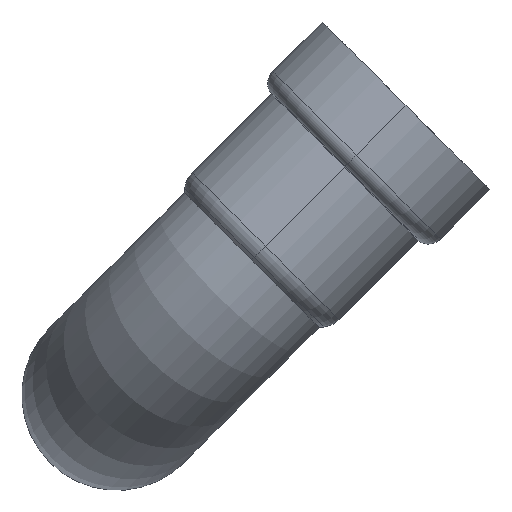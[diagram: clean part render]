
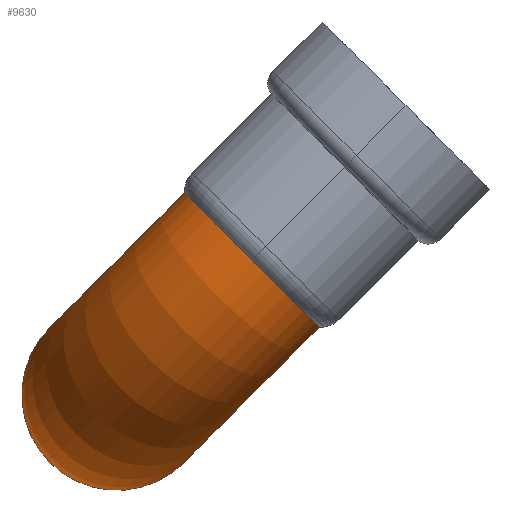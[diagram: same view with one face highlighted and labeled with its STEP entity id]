
A CAD part, top view. The second image highlights one B-rep face of the part: STEP entity #9630.
In plain terms, the highlighted toroidal (fillet/blend) face has major radius 45 mm and minor radius 22.5 mm.
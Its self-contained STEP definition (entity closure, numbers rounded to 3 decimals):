
#1560=CARTESIAN_POINT('',(-22.761,-2.73,
0.));
#1570=VERTEX_POINT('',#1560);
#1620=CARTESIAN_POINT('',(-38.671,13.18,
0.));
#1630=DIRECTION('',(0.707,0.707,
0.));
#1640=DIRECTION('',(0.,0.,1.));
#1650=AXIS2_PLACEMENT_3D('',#1620,#1630,#1640);
#1660=CIRCLE('',#1650,22.5);
#1670=CARTESIAN_POINT('',(-38.671,13.18,22.5));
#1680=VERTEX_POINT('',#1670);
#1690=EDGE_CURVE('',#1680,#1570,#1660,.T.);
#4570=CARTESIAN_POINT('',(-38.671,13.18,-22.5));
#4580=VERTEX_POINT('',#4570);
#4610=EDGE_CURVE('',#1570,#4580,#1660,.T.);
#4960=CARTESIAN_POINT('',(-70.491,45.,22.5));
#4970=DIRECTION('',(0.,0.,1.));
#4980=DIRECTION('',(0.,-1.,0.));
#4990=AXIS2_PLACEMENT_3D('',#4960,#4970,#4980);
#5000=CIRCLE('',#4990,45.);
#5010=CARTESIAN_POINT('',(-102.311,13.18,22.5));
#5020=VERTEX_POINT('',#5010);
#5030=EDGE_CURVE('',#5020,#1680,#5000,.T.);
#5050=CARTESIAN_POINT('',(-102.311,13.18,
0.));
#5060=DIRECTION('',(0.707,-0.707,
0.));
#5070=DIRECTION('',(0.,0.,1.));
#5080=AXIS2_PLACEMENT_3D('',#5050,#5060,#5070);
#5090=CIRCLE('',#5080,22.5);
#5100=CARTESIAN_POINT('',(-102.311,13.18,-22.5));
#5110=VERTEX_POINT('',#5100);
#5140=CARTESIAN_POINT('',(-70.491,45.,-22.5));
#5150=DIRECTION('',(0.,0.,1.));
#5160=DIRECTION('',(0.,-1.,0.));
#5170=AXIS2_PLACEMENT_3D('',#5140,#5150,#5160);
#5180=CIRCLE('',#5170,45.);
#5190=EDGE_CURVE('',#5110,#4580,#5180,.T.);
#9500=CARTESIAN_POINT('',(-70.491,45.,0.));
#9510=DIRECTION('',(0.,0.,1.));
#9520=DIRECTION('',(0.,-1.,0.));
#9530=AXIS2_PLACEMENT_3D('',#9500,#9510,#9520);
#9540=TOROIDAL_SURFACE('',#9530,45.,22.5);
#9550=ORIENTED_EDGE('',*,*,#1690,.F.);
#9560=ORIENTED_EDGE('',*,*,#4610,.F.);
#9570=ORIENTED_EDGE('',*,*,#5190,.T.);
#9580=EDGE_CURVE('',#5020,#5110,#5090,.T.);
#9590=ORIENTED_EDGE('',*,*,#9580,.T.);
#9600=ORIENTED_EDGE('',*,*,#5030,.F.);
#9610=EDGE_LOOP('',(#9600,#9590,#9570,#9560,#9550));
#9620=FACE_OUTER_BOUND('',#9610,.T.);
#9630=ADVANCED_FACE('',(#9620),#9540,.T.);
